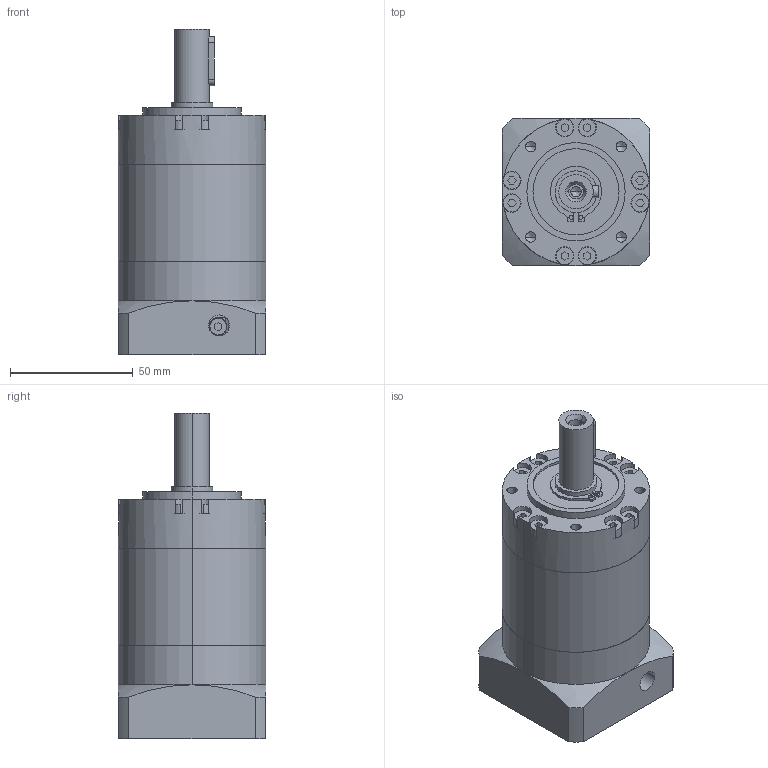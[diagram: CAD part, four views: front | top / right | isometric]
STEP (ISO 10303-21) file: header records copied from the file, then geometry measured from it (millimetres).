
FILE_DESCRIPTION (( 'STEP AP214' ), '1' );
FILE_NAME ('PRL60-L2 目录1.STEP', '2020-09-14T02:27:37', ( '微软用户' ), ( '微软中国' ), 'SwSTEP 2.0', 'SolidWorks 2014', '' );
FILE_SCHEMA (( 'AUTOMOTIVE_DESIGN' ));
Length unit declared in the file: millimetre
Products named in the file (15): PLE60 奻屳唳; 粣創-6004 20x42x12; 邧埴瑩 5x5x20; 囀鞠褒蹟佪-M4℅12; PLE60 狟屳唳_D6-60 D7-14 梓袧; PLE60 內齿圈_二级内齿圈; PRL60-L2 Ŀ¼1; PLE60-窣諉啣-梓袧 (2)_D8-50 D9-70 D10-M10 L4-22 L6-32(22+10) L7-4 A2-60 R-39.5 梓袧
Assembly tree (7 placements, depth 2):
  PLE60 奻屳唳
  粣創-6004 20x42x12
  邧埴瑩 5x5x20
  囀鞠褒蹟佪-M4℅12
  PLE60 狟屳唳_D6-60 D7-14 梓袧
Bounding box: 60 x 60 x 132.5 mm (x, y, z)
Volume: 262538.4 mm3; surface area: 69496.9 mm2
Topology: 7 solids, 7 shells, 485 faces, 1327 edges, 861 vertices
Faces by surface type: cylinder 172, plane 172, bspline 118, cone 23
Entity records: 24976 total; most frequent: CARTESIAN_POINT 7617, ORIENTED_EDGE 2586, DIRECTION 2262, EDGE_CURVE 1293, AXIS2_PLACEMENT_3D 910, VERTEX_POINT 853, EDGE_LOOP 572, CIRCLE 532
